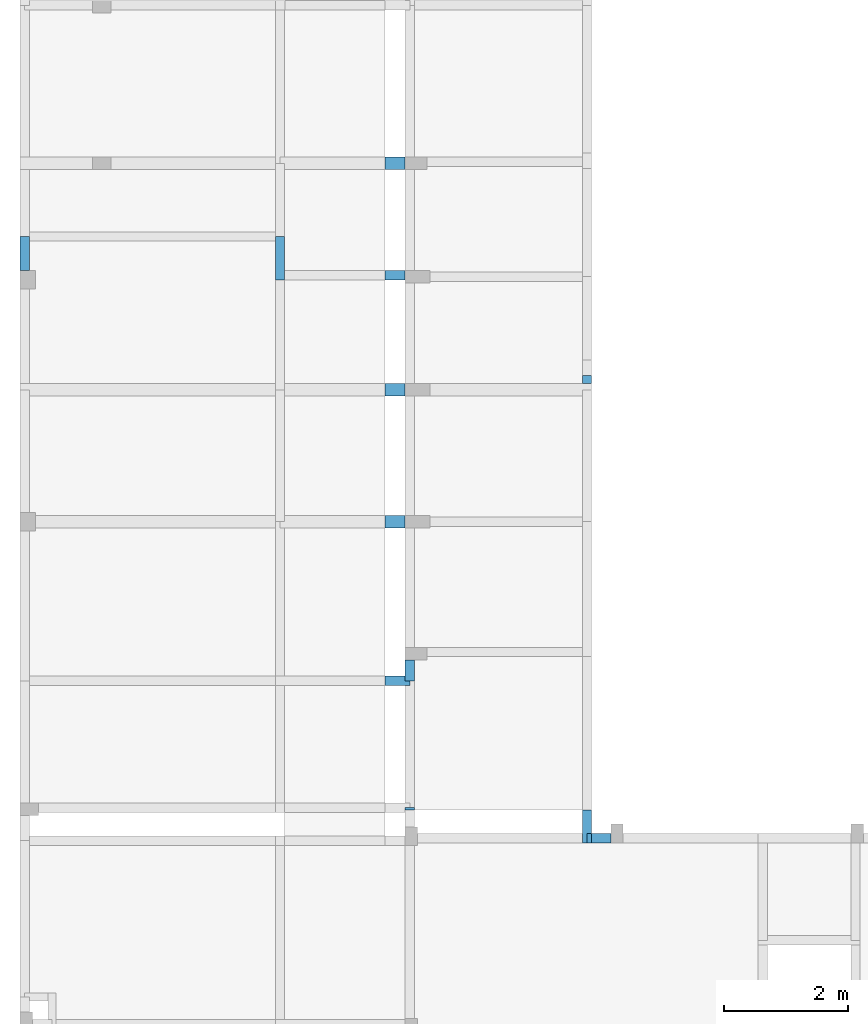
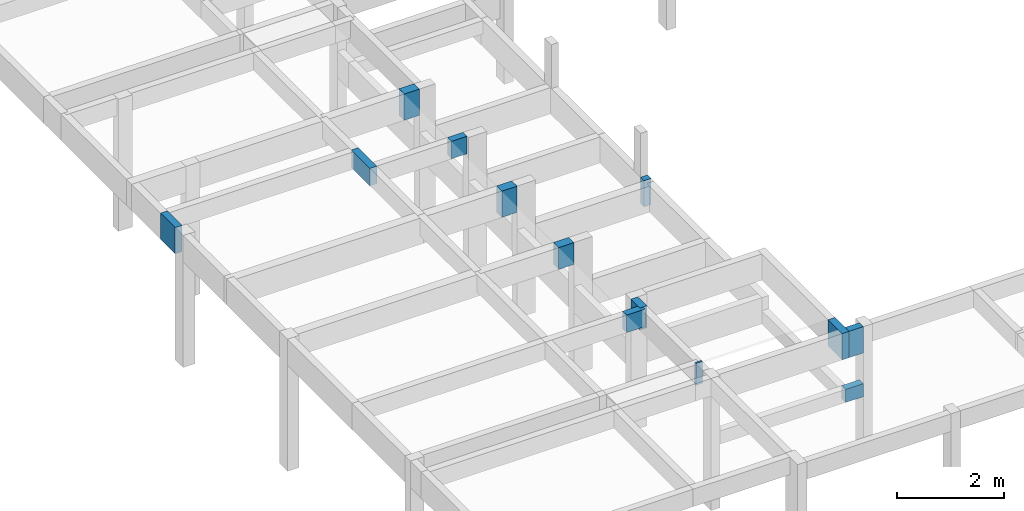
# One storey, part 5 of 21: 13 beams.
"""IFC4 building model written with IfcOpenShell, lengths in centimetres."""

from ifc_helpers import new_model, si_unit, derived_unit, frame, origin_with_axes, origin_2d_with_axis, place, context, project, spatial, rectangle, extrude, material, element, save


model = new_model("IFC4")

# Units and contexts
model_context = context("Model", 3, precision=1e-05, world=origin_with_axes(), identifier="Body")
ifc_project = project(units=[si_unit("LENGTHUNIT", "METRE", prefix="CENTI"), si_unit("VOLUMEUNIT", "CUBIC_METRE"), si_unit("AREAUNIT", "SQUARE_METRE"), si_unit("POWERUNIT", "WATT"), si_unit("LUMINOUSFLUXUNIT", "LUMEN"), si_unit("ELECTRICCURRENTUNIT", "AMPERE"), si_unit("PRESSUREUNIT", "PASCAL", prefix="KILO"), si_unit("MASSUNIT", "GRAM", prefix="KILO"), si_unit("PLANEANGLEUNIT", "RADIAN"), derived_unit("VOLUMETRICFLOWRATEUNIT", [(si_unit("LENGTHUNIT", "METRE"), 3), (si_unit("TIMEUNIT", "SECOND"), -1)])], contexts=[model_context])

# Site, building, storey
site_placement = place(None, origin_with_axes())
site = spatial("IfcSite", under=ifc_project, at=site_placement)
building_placement = place(site_placement, frame((0.0, 0.0, -295.0)))
building = spatial("IfcBuilding", under=site, at=building_placement)
placement_1 = place(building_placement, origin_with_axes())
placement_2 = place(placement_1, frame((0.0, 0.0, 101.0), z_axis=(0.0, 0.0, 1.0), x_axis=(1.0, 0.0, 0.0)))
placement_3 = place(placement_2, frame((0.0, 0.0, 204.0), z_axis=(0.0, 0.0, 1.0), x_axis=(1.0, 0.0, 0.0)))
placement_4 = place(placement_3, frame((0.0, 0.0, 292.0), z_axis=(0.0, 0.0, 1.0), x_axis=(1.0, 0.0, 0.0)))
storey_placement = place(placement_4, frame((0.0, 0.0, 302.0), z_axis=(0.0, 0.0, 1.0), x_axis=(1.0, 0.0, 0.0)))
storey = spatial("IfcBuildingStorey", under=building, at=storey_placement, Name="PAVTO 02", CompositionType="ELEMENT", Elevation=604.0)

# Beams
ifc_material = material(Name="Concreto")
beam_1_placement = place(storey_placement, frame((1157.4, -5746.84, 0.0), z_axis=(0.0, 0.0, 1.0), x_axis=(1.0, 0.0, 0.0)))
element("IfcBeam", 1, at=beam_1_placement, inside=storey, material=ifc_material, Name="V211", context=model_context, shape_type="SolidModel", body=[
    extrude(rectangle(XDim=20.0, YDim=60.0, at=origin_2d_with_axis()), frame((-16.5, 0.0, -30.0), z_axis=(1.0, 0.0, 0.0), x_axis=(0.0, -1.0, 0.0)), (0.0, 0.0, 1.0), 33.0),
])
beam_2_placement = place(storey_placement, frame((1157.4, -5927.35, 0.0), z_axis=(0.0, 0.0, 1.0), x_axis=(1.0, 0.0, 0.0)))
element("IfcBeam", 2, at=beam_2_placement, inside=storey, material=ifc_material, Name="V215", context=model_context, shape_type="SolidModel", body=[
    extrude(rectangle(XDim=15.0, YDim=40.0, at=origin_2d_with_axis()), frame((-16.5, 0.0, -20.0), z_axis=(1.0, 0.0, 0.0), x_axis=(0.0, -1.0, 0.0)), (0.0, 0.0, 1.0), 33.0),
])
beam_3_placement = place(storey_placement, frame((1157.4, -6112.7, 0.0), z_axis=(0.0, 0.0, 1.0), x_axis=(1.0, 0.0, 0.0)))
element("IfcBeam", 3, at=beam_3_placement, inside=storey, material=ifc_material, Name="V217", context=model_context, shape_type="SolidModel", body=[
    extrude(rectangle(XDim=20.0, YDim=60.0, at=origin_2d_with_axis()), frame((-16.5, 0.0, -30.0), z_axis=(1.0, 0.0, 0.0), x_axis=(0.0, -1.0, 0.0)), (0.0, 0.0, 1.0), 33.0),
])
beam_4_placement = place(storey_placement, frame((1157.4, -6325.62, 0.0), z_axis=(0.0, 0.0, 1.0), x_axis=(1.0, 0.0, 0.0)))
element("IfcBeam", 4, at=beam_4_placement, inside=storey, material=ifc_material, Name="V218", context=model_context, shape_type="SolidModel", body=[
    extrude(rectangle(XDim=20.0, YDim=50.0, at=origin_2d_with_axis()), frame((-16.5, 0.0, -25.0), z_axis=(1.0, 0.0, 0.0), x_axis=(0.0, -1.0, 0.0)), (0.0, 0.0, 1.0), 33.0),
])
beam_5_placement = place(storey_placement, frame((1161.15, -6582.54, 0.0), z_axis=(0.0, 0.0, 1.0), x_axis=(1.0, 0.0, 0.0)))
element("IfcBeam", 5, at=beam_5_placement, inside=storey, material=ifc_material, Name="V221", context=model_context, shape_type="SolidModel", body=[
    extrude(rectangle(XDim=15.0, YDim=40.0, at=origin_2d_with_axis()), frame((-20.25, 0.0, -20.0), z_axis=(1.0, 0.0, 0.0), x_axis=(0.0, -1.0, 0.0)), (0.0, 0.0, 1.0), 40.5),
])
beam_6_placement = place(storey_placement, frame((1490.43, -6836.7, 0.0), z_axis=(0.0, 0.0, 1.0), x_axis=(1.0, 0.0, 0.0)))
element("IfcBeam", 6, at=beam_6_placement, inside=storey, material=ifc_material, Name="V226", context=model_context, shape_type="SolidModel", body=[
    extrude(rectangle(XDim=15.0, YDim=60.0, at=origin_2d_with_axis()), frame((-15.53, 0.0, -30.0), z_axis=(1.0, 0.0, 0.0), x_axis=(0.0, -1.0, 0.0)), (0.0, 0.0, 1.0), 31.06),
])
beam_7_placement = place(storey_placement, frame((559.23, -5892.45, 0.0), z_axis=(0.0, 0.0, 1.0), x_axis=(1.0, 0.0, 0.0)))
element("IfcBeam", 7, at=beam_7_placement, inside=storey, material=ifc_material, Name="V237", context=model_context, shape_type="SolidModel", body=[
    extrude(rectangle(XDim=15.0, YDim=60.0, at=origin_2d_with_axis()), frame((0.0, -27.4, -30.0), z_axis=(0.0, 1.0, 0.0), x_axis=(1.0, 0.0, 0.0)), (0.0, 0.0, 1.0), 54.8),
])
beam_8_placement = place(storey_placement, frame((971.57, -5899.95, 0.0), z_axis=(0.0, 0.0, 1.0), x_axis=(1.0, 0.0, 0.0)))
element("IfcBeam", 8, at=beam_8_placement, inside=storey, material=ifc_material, Name="V239", context=model_context, shape_type="SolidModel", body=[
    extrude(rectangle(XDim=15.0, YDim=40.0, at=origin_2d_with_axis()), frame((0.0, -34.9, -20.0), z_axis=(0.0, 1.0, 0.0), x_axis=(1.0, 0.0, 0.0)), (0.0, 0.0, 1.0), 69.8),
])
beam_9_placement = place(storey_placement, frame((1181.4, -6789.55, 0.0), z_axis=(0.0, 0.0, 1.0), x_axis=(1.0, 0.0, 0.0)))
element("IfcBeam", 9, at=beam_9_placement, inside=storey, material=ifc_material, Name="V241", context=model_context, shape_type="SolidModel", body=[
    extrude(rectangle(XDim=15.0, YDim=50.0, at=origin_2d_with_axis()), frame((0.0, -2.01, -25.0), z_axis=(0.0, 1.0, 0.0), x_axis=(1.0, 0.0, 0.0)), (0.0, 0.0, 1.0), 4.02),
])
beam_10_placement = place(storey_placement, frame((1181.4, -6565.545, 0.0), z_axis=(0.0, 0.0, 1.0), x_axis=(1.0, 0.0, 0.0)))
element("IfcBeam", 10, at=beam_10_placement, inside=storey, material=ifc_material, Name="V241", context=model_context, shape_type="SolidModel", body=[
    extrude(rectangle(XDim=15.0, YDim=50.0, at=origin_2d_with_axis()), frame((0.0, -16.995, -25.0), z_axis=(0.0, 1.0, 0.0), x_axis=(1.0, 0.0, 0.0)), (0.0, 0.0, 1.0), 33.99),
])
beam_11_placement = place(storey_placement, frame((1467.4, -6817.88, 0.0), z_axis=(0.0, 0.0, 1.0), x_axis=(1.0, 0.0, 0.0)))
element("IfcBeam", 11, at=beam_11_placement, inside=storey, material=ifc_material, Name="V245", context=model_context, shape_type="SolidModel", body=[
    extrude(rectangle(XDim=15.0, YDim=60.0, at=origin_2d_with_axis()), frame((0.0, -26.32, -30.0), z_axis=(0.0, 1.0, 0.0), x_axis=(1.0, 0.0, 0.0)), (0.0, 0.0, 1.0), 52.64),
])
beam_12_placement = place(storey_placement, frame((1486.68, -6836.76, -130.0), z_axis=(0.0, 0.0, 1.0), x_axis=(1.0, 0.0, 0.0)))
element("IfcBeam", 12, at=beam_12_placement, inside=storey, material=ifc_material, Name="V274", context=model_context, shape_type="SolidModel", body=[
    extrude(rectangle(XDim=15.0, YDim=30.0, at=origin_2d_with_axis()), frame((-19.28, 0.0, -15.0), z_axis=(1.0, 0.0, 0.0), x_axis=(0.0, -1.0, 0.0)), (0.0, 0.0, 1.0), 38.56),
])
beam_13_placement = place(storey_placement, frame((1467.4, -6095.95, -100.0), z_axis=(0.0, 0.0, 1.0), x_axis=(1.0, 0.0, 0.0)))
element("IfcBeam", 13, at=beam_13_placement, inside=storey, material=ifc_material, Name="V277", context=model_context, shape_type="SolidModel", body=[
    extrude(rectangle(XDim=15.0, YDim=60.0, at=origin_2d_with_axis()), frame((0.0, -6.75, -30.0), z_axis=(0.0, 1.0, 0.0), x_axis=(1.0, 0.0, 0.0)), (0.0, 0.0, 1.0), 13.5),
])

save(model, "model.ifc")
